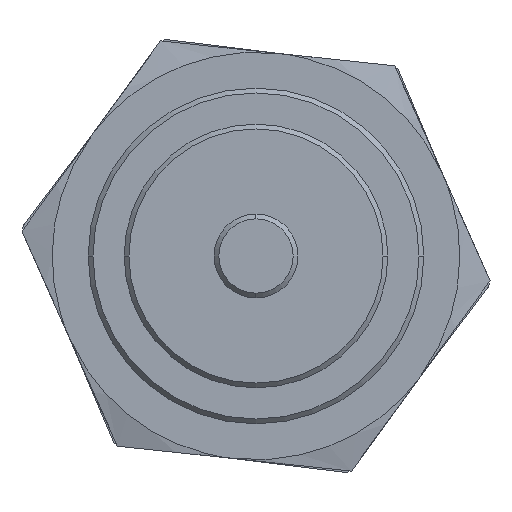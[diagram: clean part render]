
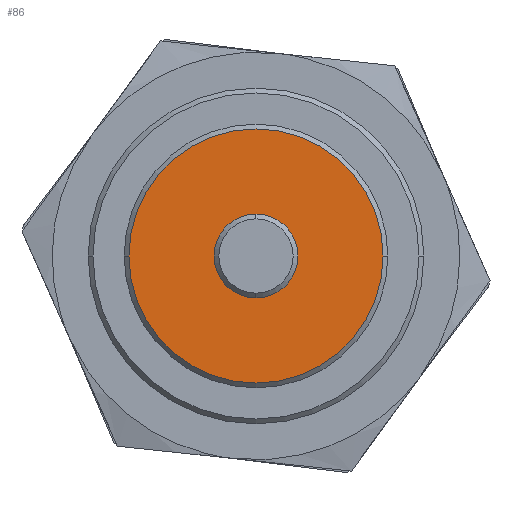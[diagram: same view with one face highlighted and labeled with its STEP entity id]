
A CAD part, left-side view. The second image highlights one B-rep face of the part: STEP entity #86.
In plain terms, the highlighted planar face has unit normal (-1, 0, 0).
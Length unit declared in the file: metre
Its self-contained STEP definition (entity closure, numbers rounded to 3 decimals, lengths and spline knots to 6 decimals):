
#3 = DIRECTION ( 'NONE',  ( 1., 0., 0. ) ) ;
#18 = CARTESIAN_POINT ( 'NONE',  ( 0.012, -0.005364, 0.005364 ) ) ;
#81 = CARTESIAN_POINT ( 'NONE',  ( 0.012, 0.00175, 0. ) ) ;
#86 = ADVANCED_FACE ( 'NONE', ( #277, #1125 ), #525, .F. ) ;
#99 = CARTESIAN_POINT ( 'NONE',  ( 0.012, 0., 0. ) ) ;
#133 = EDGE_CURVE ( 'NONE', #327, #510, #461, .T. ) ;
#144 = DIRECTION ( 'NONE',  ( 0., 0., -1. ) ) ;
#192 = CARTESIAN_POINT ( 'NONE',  ( 0.012, -0.0053, 0. ) ) ;
#218 = DIRECTION ( 'NONE',  ( 0., 1., 0. ) ) ;
#222 = EDGE_LOOP ( 'NONE', ( #1349, #1038 ) ) ;
#232 = DIRECTION ( 'NONE',  ( 0., 1., 0. ) ) ;
#277 = FACE_BOUND ( 'NONE', #441, .T. ) ;
#327 = VERTEX_POINT ( 'NONE', #192 ) ;
#428 = CIRCLE ( 'NONE', #623, 0.0053 ) ;
#433 = DIRECTION ( 'NONE',  ( -1., 0., 0. ) ) ;
#441 = EDGE_LOOP ( 'NONE', ( #630, #1203 ) ) ;
#461 = CIRCLE ( 'NONE', #564, 0.0053 ) ;
#510 = VERTEX_POINT ( 'NONE', #1007 ) ;
#525 = PLANE ( 'NONE',  #1021 ) ;
#564 = AXIS2_PLACEMENT_3D ( 'NONE', #922, #928, #232 ) ;
#571 = DIRECTION ( 'NONE',  ( -1., 0., 0. ) ) ;
#623 = AXIS2_PLACEMENT_3D ( 'NONE', #99, #888, #218 ) ;
#630 = ORIENTED_EDGE ( 'NONE', *, *, #1129, .F. ) ;
#660 = VERTEX_POINT ( 'NONE', #719 ) ;
#680 = AXIS2_PLACEMENT_3D ( 'NONE', #1248, #571, #1365 ) ;
#719 = CARTESIAN_POINT ( 'NONE',  ( 0.012, -0.00175, 0. ) ) ;
#853 = AXIS2_PLACEMENT_3D ( 'NONE', #1101, #433, #1220 ) ;
#873 = EDGE_CURVE ( 'NONE', #1012, #660, #1228, .T. ) ;
#888 = DIRECTION ( 'NONE',  ( -1., 0., 0. ) ) ;
#922 = CARTESIAN_POINT ( 'NONE',  ( 0.012, 0., 0. ) ) ;
#928 = DIRECTION ( 'NONE',  ( -1., 0., 0. ) ) ;
#1007 = CARTESIAN_POINT ( 'NONE',  ( 0.012, 0.0053, 0. ) ) ;
#1012 = VERTEX_POINT ( 'NONE', #81 ) ;
#1021 = AXIS2_PLACEMENT_3D ( 'NONE', #18, #3, #144 ) ;
#1038 = ORIENTED_EDGE ( 'NONE', *, *, #133, .T. ) ;
#1101 = CARTESIAN_POINT ( 'NONE',  ( 0.012, 0., 0. ) ) ;
#1125 = FACE_OUTER_BOUND ( 'NONE', #222, .T. ) ;
#1129 = EDGE_CURVE ( 'NONE', #660, #1012, #1399, .T. ) ;
#1138 = EDGE_CURVE ( 'NONE', #510, #327, #428, .T. ) ;
#1203 = ORIENTED_EDGE ( 'NONE', *, *, #873, .F. ) ;
#1220 = DIRECTION ( 'NONE',  ( 0., -1., 0. ) ) ;
#1228 = CIRCLE ( 'NONE', #680, 0.00175 ) ;
#1248 = CARTESIAN_POINT ( 'NONE',  ( 0.012, 0., 0. ) ) ;
#1349 = ORIENTED_EDGE ( 'NONE', *, *, #1138, .T. ) ;
#1365 = DIRECTION ( 'NONE',  ( 0., -1., 0. ) ) ;
#1399 = CIRCLE ( 'NONE', #853, 0.00175 ) ;
